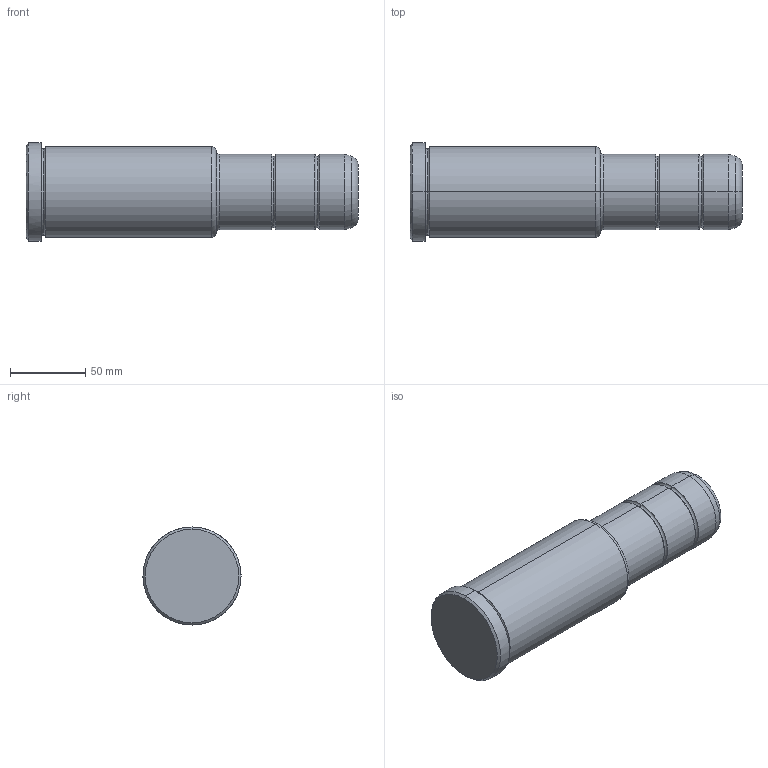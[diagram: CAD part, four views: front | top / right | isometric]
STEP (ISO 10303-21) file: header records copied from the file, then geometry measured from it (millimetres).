
FILE_DESCRIPTION(('CATIA V5 STEP Exchange'),'2;1');
FILE_NAME('C:\Users\Utente\Desktop\IO LAVORO\3D X SITO CF\X SITO\PLASTICA\351\351-50X126X220.stp','2021-11-08T18:52:43+00:00',('none'),('none'),'CATIA Version 5 Release 20 GA (IN-10)','CATIA V5 STEP AP203','none');
FILE_SCHEMA(('CONFIG_CONTROL_DESIGN'));
Length unit declared in the file: millimetre
Products named in the file (1): 351-50X126X220
Bounding box: 220 x 65 x 65 mm (x, y, z)
Volume: 541347.5 mm3; surface area: 44939.8 mm2
Topology: 1 solids, 1 shells, 35 faces, 98 edges, 66 vertices
Faces by surface type: torus 18, cylinder 10, cone 4, plane 3
Entity records: 1198 total; most frequent: CARTESIAN_POINT 256, ORIENTED_EDGE 196, DIRECTION 164, AXIS2_PLACEMENT_3D 116, EDGE_CURVE 98, CIRCLE 80, VERTEX_POINT 66, EDGE_LOOP 36
